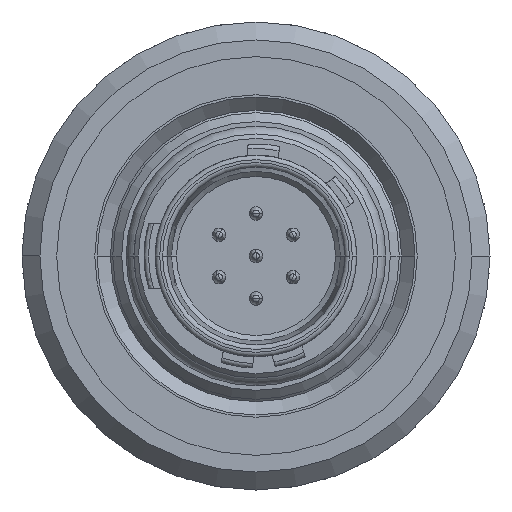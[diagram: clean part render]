
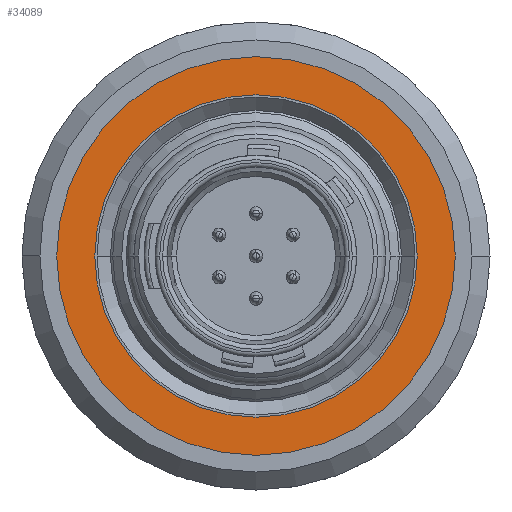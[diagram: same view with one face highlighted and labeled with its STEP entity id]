
A CAD part, left-side view. The second image highlights one B-rep face of the part: STEP entity #34089.
In plain terms, the highlighted planar face has unit normal (-1, 0, 0).
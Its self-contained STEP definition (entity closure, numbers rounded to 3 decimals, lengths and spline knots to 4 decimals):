
#7004=CARTESIAN_POINT('',(-4.89,0.,0.));
#7005=DIRECTION('',(1.,0.,0.));
#7006=DIRECTION('',(0.,-1.,0.));
#7007=AXIS2_PLACEMENT_3D('',#7004,#7005,#7006);
#7009=CARTESIAN_POINT('',(-4.89,0.,0.));
#7010=DIRECTION('',(1.,0.,0.));
#7011=DIRECTION('',(0.,1.,0.));
#7012=AXIS2_PLACEMENT_3D('',#7009,#7010,#7011);
#7014=CARTESIAN_POINT('',(-4.89,0.,0.));
#7015=DIRECTION('',(-1.,0.,0.));
#7016=DIRECTION('',(0.,-1.,0.));
#7017=AXIS2_PLACEMENT_3D('',#7014,#7015,#7016);
#7019=CARTESIAN_POINT('',(-4.89,0.,0.));
#7020=DIRECTION('',(-1.,0.,0.));
#7021=DIRECTION('',(0.,1.,0.));
#7022=AXIS2_PLACEMENT_3D('',#7019,#7020,#7021);
#18506=CARTESIAN_POINT('',(-4.89,4.45,0.));
#18507=VERTEX_POINT('',#18506);
#18508=CARTESIAN_POINT('',(-4.89,-4.45,0.));
#18509=VERTEX_POINT('',#18508);
#18510=CARTESIAN_POINT('',(-4.89,-3.6,0.));
#18511=CARTESIAN_POINT('',(-4.89,3.6,0.));
#18512=VERTEX_POINT('',#18510);
#18513=VERTEX_POINT('',#18511);
#34074=CARTESIAN_POINT('',(-4.89,0.,0.));
#34075=DIRECTION('',(-1.,0.,0.));
#34076=DIRECTION('',(0.,1.,0.));
#34077=AXIS2_PLACEMENT_3D('',#34074,#34075,#34076);
#34078=PLANE('',#34077);
#34079=ORIENTED_EDGE('',*,*,#34040,.T.);
#34080=ORIENTED_EDGE('',*,*,#34061,.T.);
#34081=EDGE_LOOP('',(#34079,#34080));
#34082=FACE_OUTER_BOUND('',#34081,.F.);
#34084=ORIENTED_EDGE('',*,*,#34083,.T.);
#34086=ORIENTED_EDGE('',*,*,#34085,.T.);
#34087=EDGE_LOOP('',(#34084,#34086));
#34088=FACE_BOUND('',#34087,.F.);
#7008=CIRCLE('',#7007,4.45);
#7013=CIRCLE('',#7012,4.45);
#7018=CIRCLE('',#7017,3.6);
#7023=CIRCLE('',#7022,3.6);
#34040=EDGE_CURVE('',#18509,#18507,#7008,.T.);
#34061=EDGE_CURVE('',#18507,#18509,#7013,.T.);
#34083=EDGE_CURVE('',#18512,#18513,#7018,.T.);
#34085=EDGE_CURVE('',#18513,#18512,#7023,.T.);
#34089=ADVANCED_FACE('',(#34082,#34088),#34078,.T.);
